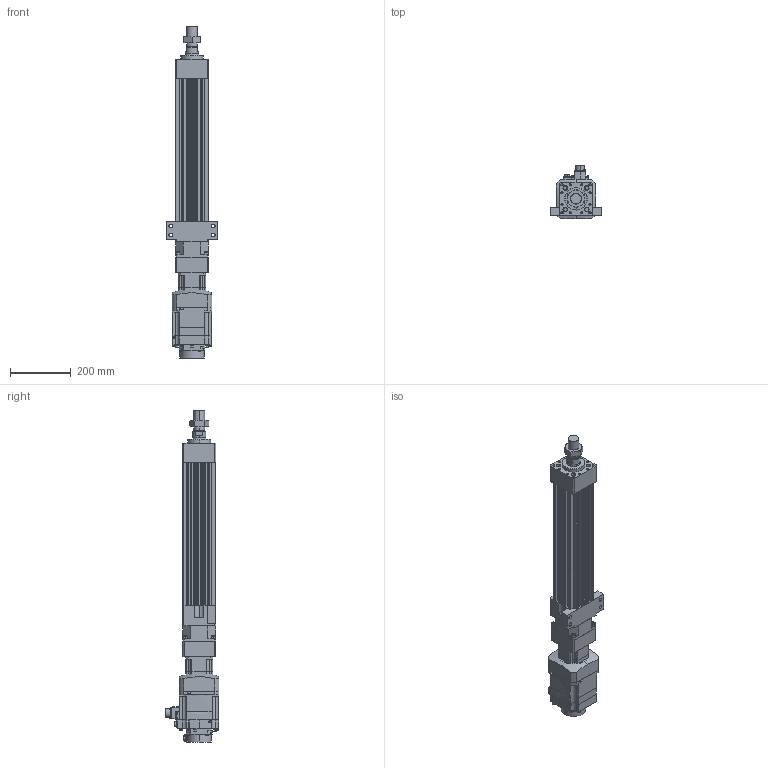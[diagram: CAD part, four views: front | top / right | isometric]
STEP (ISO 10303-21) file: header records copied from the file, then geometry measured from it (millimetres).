
FILE_DESCRIPTION (( 'STEP AP203' ), '1' );
FILE_NAME ('HES110NS(HS)-S300-W010G00-M-FFC.STEP', '2026-06-10T06:02:31', ( 'tms' ), ( '' ), 'SwSTEP 2.0', 'SolidWorks 2013', '' );
FILE_SCHEMA (( 'CONFIG_CONTROL_DESIGN' ));
Length unit declared in the file: millimetre
Products named in the file (8): AB0901; HES110-S-G90; HES110NS(HS)-S300-W010G00-M-FFC; AB0902; M36X1.5P; HES110-M-ROD-300; HG-SR102B; HES110-FFC-300
Assembly tree (7 placements, depth 2):
  HES110NS(HS)-S300-W010G00-M-FFC
    HES110-FFC-300
    HES110-M-ROD-300
    M36X1.5P
    HES110-S-G90
    AB0901
    AB0902
    HG-SR102B
Bounding box: 170 x 177.49 x 1093 mm (x, y, z)
Volume: 7362829.2 mm3; surface area: 945047.7 mm2
Topology: 5 solids, 12 shells, 1228 faces, 3114 edges, 2013 vertices
Faces by surface type: cylinder 568, plane 554, cone 92, bspline 10, torus 4
Entity records: 39020 total; most frequent: CARTESIAN_POINT 7659, DIRECTION 6711, ORIENTED_EDGE 6152, EDGE_CURVE 3086, AXIS2_PLACEMENT_3D 2489, VERTEX_POINT 2013, LINE 1733, VECTOR 1733
